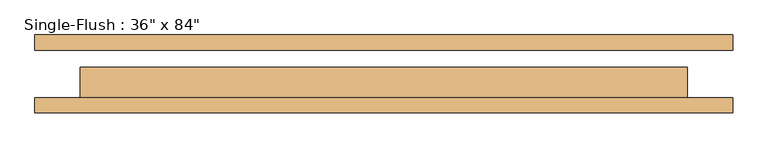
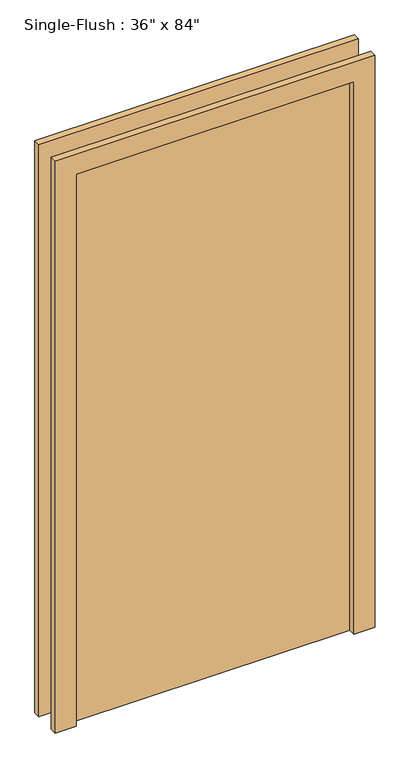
"""IFC4 building model written with IfcOpenShell, lengths in millimetres: door geometry."""

from ifc_helpers import new_model, si_unit, frame, origin, origin_with_axes, place, context, project, spatial, polyline, outline, extrude, source, transform, mapped, element, save


def door_6831372b(model_context):
    return source(origin(), model_context, "Body", "SweptSolid", [
        extrude(outline(polyline([(2209.8, -584.2), (0.0, -584.2), (0.0, -508.0), (2133.6, -508.0), (2133.6, 508.0), (0.0, 508.0), (0.0, 584.2), (2209.8, 584.2), (2209.8, -584.2)])), frame((0.0, -65.0875, 0.0), z_axis=(0.0, 1.0, 0.0), x_axis=(0.0, 0.0, 1.0)), (0.0, 0.0, 1.0), 25.4),
        extrude(outline(polyline([(2209.8, 584.2), (2209.8, -584.2), (0.0, -584.2), (0.0, -508.0), (2133.6, -508.0), (2133.6, 508.0), (0.0, 508.0), (0.0, 584.2), (2209.8, 584.2)])), frame((0.0, 39.6875, 0.0), z_axis=(0.0, 1.0, 0.0), x_axis=(0.0, 0.0, 1.0)), (0.0, 0.0, 1.0), 25.4),
        extrude(outline(polyline([(508.0, 11.1125), (508.0, -39.6875), (-508.0, -39.6875), (-508.0, 11.1125), (508.0, 11.1125)])), origin_with_axes(), (0.0, 0.0, 1.0), 2133.6),
    ])


if __name__ == "__main__":
    model = new_model("IFC4")
    model_context = context("Model", 3, world=origin())
    ifc_project = project(units=[si_unit("LENGTHUNIT", "METRE", prefix="MILLI")], contexts=[model_context])
    site = spatial("IfcSite", under=ifc_project)
    building = spatial("IfcBuilding", under=site)
    placement = place(None, origin())
    door_shape = door_6831372b(model_context)
    element("IfcDoor", 1, ObjectType="Single-Flush : 36\" x 84\"", at=placement, inside=building, context=model_context, shape_type="MappedRepresentation", body=[
        mapped(door_shape, transform((0.0, 0.0, 0.0), x_axis=(1.0, 0.0, 0.0), y_axis=(0.0, 1.0, 0.0), z_axis=(0.0, 0.0, 1.0))),
    ])
    save(model, "model.ifc")
